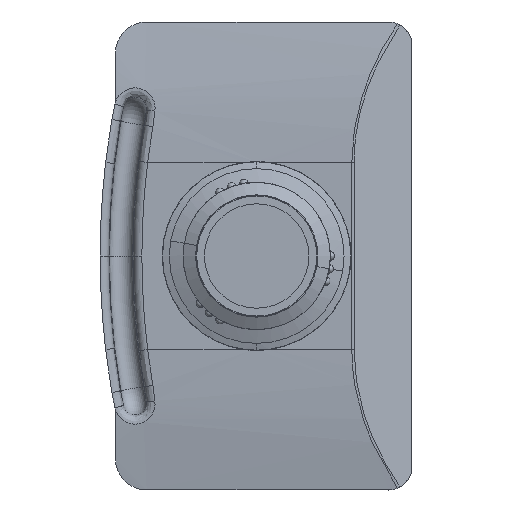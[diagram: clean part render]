
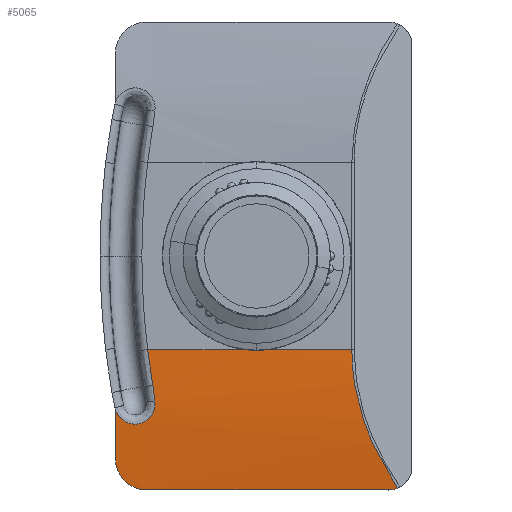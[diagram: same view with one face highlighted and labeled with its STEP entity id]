
A CAD part, left-side view. The second image highlights one B-rep face of the part: STEP entity #5065.
In plain terms, the highlighted cylindrical face has radius 502.5 mm (diameter 1005 mm), a partial arc.
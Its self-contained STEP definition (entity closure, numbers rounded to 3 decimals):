
#2288=CARTESIAN_POINT('',(92.886,-1.423,73.59));
#2289=CARTESIAN_POINT('',(93.728,-1.368,73.692));
#2290=CARTESIAN_POINT('',(94.987,-1.282,73.732));
#2291=CARTESIAN_POINT('',(96.657,-1.162,73.559));
#2292=CARTESIAN_POINT('',(98.324,-1.038,73.225));
#2293=CARTESIAN_POINT('',(100.292,-0.884,
72.533));
#2294=CARTESIAN_POINT('',(102.495,-0.701,
71.244));
#2295=CARTESIAN_POINT('',(104.055,-0.566,
69.868));
#2296=CARTESIAN_POINT('',(105.149,-0.468,
68.576));
#2297=CARTESIAN_POINT('',(105.858,-0.403,
67.548));
#2298=CARTESIAN_POINT('',(106.465,-0.347,
66.458));
#2299=CARTESIAN_POINT('',(106.968,-0.3,
65.302));
#2300=CARTESIAN_POINT('',(107.354,-0.264,
64.106));
#2301=CARTESIAN_POINT('',(107.618,-0.239,
62.89));
#2302=CARTESIAN_POINT('',(107.765,-0.225,
61.65));
#2303=CARTESIAN_POINT('',(107.796,-0.222,
59.963));
#2304=CARTESIAN_POINT('',(107.586,-0.242,
58.322));
#2305=CARTESIAN_POINT('',(107.133,-0.285,
56.702));
#2306=CARTESIAN_POINT('',(106.525,-0.342,
55.141));
#2307=CARTESIAN_POINT('',(105.707,-0.417,
53.697));
#2308=CARTESIAN_POINT('',(104.669,-0.511,
52.361));
#2309=CARTESIAN_POINT('',(103.525,-0.612,
51.15));
#2310=CARTESIAN_POINT('',(102.218,-0.724,
50.108));
#2311=CARTESIAN_POINT('',(100.758,-0.845,
49.251));
#2312=CARTESIAN_POINT('',(99.647,-0.934,
48.73));
#2313=CARTESIAN_POINT('',(98.885,-0.993,
48.45));
#2314=CARTESIAN_POINT('',(98.51,-1.022,48.33));
#2319=CARTESIAN_POINT('',(82.981,-1.974,72.281));
#2320=CARTESIAN_POINT('',(83.803,-1.937,72.419));
#2321=CARTESIAN_POINT('',(85.451,-1.857,72.664));
#2322=CARTESIAN_POINT('',(88.754,-1.681,73.091));
#2323=CARTESIAN_POINT('',(91.233,-1.531,73.391));
#2324=CARTESIAN_POINT('',(92.886,-1.423,73.59));
#2329=CARTESIAN_POINT('',(60.,-2.5,68.938));
#2330=CARTESIAN_POINT('',(67.689,-2.5,69.883));
#2331=CARTESIAN_POINT('',(75.35,-2.324,70.997));
#2332=CARTESIAN_POINT('',(82.981,-1.974,72.281));
#2337=DIRECTION('',(0.,0.,-1.));
#2338=VECTOR('',#2337,61.924);
#2339=CARTESIAN_POINT('',(60.,-2.5,130.862));
#2340=LINE('',#2339,#2338);
#2344=CARTESIAN_POINT('',(60.,-2.5,146.818));
#2345=CARTESIAN_POINT('',(60.353,-2.5,144.158));
#2346=CARTESIAN_POINT('',(60.703,-2.499,138.84));
#2347=CARTESIAN_POINT('',(60.353,-2.5,133.522));
#2348=CARTESIAN_POINT('',(60.,-2.5,130.862));
#2353=DIRECTION('',(0.,0.,-1.));
#2354=VECTOR('',#2353,52.99);
#2355=CARTESIAN_POINT('',(60.,-2.5,199.808));
#2356=LINE('',#2355,#2354);
#2360=CARTESIAN_POINT('',(148.869,5.421,229.045));
#2361=CARTESIAN_POINT('',(134.338,2.81,219.408));
#2362=CARTESIAN_POINT('',(104.796,-1.164,204.739));
#2363=CARTESIAN_POINT('',(75.016,-2.5,199.808));
#2364=CARTESIAN_POINT('',(60.,-2.5,199.808));
#2369=DIRECTION('',(0.,0.,1.));
#2370=VECTOR('',#2369,155.);
#2371=CARTESIAN_POINT('',(150.,5.625,68.33));
#2372=LINE('',#2371,#2370);
#2376=CARTESIAN_POINT('',(130.,2.4,48.33));
#2377=CARTESIAN_POINT('',(130.755,2.506,48.33));
#2378=CARTESIAN_POINT('',(132.256,2.72,48.414));
#2379=CARTESIAN_POINT('',(134.489,3.05,48.797));
#2380=CARTESIAN_POINT('',(136.672,3.382,49.431));
#2381=CARTESIAN_POINT('',(138.74,3.706,50.294));
#2382=CARTESIAN_POINT('',(140.719,4.024,51.394));
#2383=CARTESIAN_POINT('',(142.555,4.327,52.707));
#2384=CARTESIAN_POINT('',(144.215,4.606,54.202));
#2385=CARTESIAN_POINT('',(145.709,4.863,55.883));
#2386=CARTESIAN_POINT('',(147.004,5.089,57.722));
#2387=CARTESIAN_POINT('',(148.072,5.278,59.665));
#2388=CARTESIAN_POINT('',(148.925,5.431,61.736));
#2389=CARTESIAN_POINT('',(149.542,5.542,63.885));
#2390=CARTESIAN_POINT('',(149.915,5.61,66.081));
#2391=CARTESIAN_POINT('',(150.,5.625,67.575));
#2392=CARTESIAN_POINT('',(150.,5.625,68.33));
#2405=CARTESIAN_POINT('',(60.,500.,48.33));
#2406=DIRECTION('',(0.,0.,-1.));
#2407=DIRECTION('',(0.139,-0.99,0.));
#2408=AXIS2_PLACEMENT_3D('',#2405,#2406,#2407);
#2455=CARTESIAN_POINT('',(148.869,5.421,229.045));
#2456=CARTESIAN_POINT('',(149.055,5.454,228.593));
#2457=CARTESIAN_POINT('',(149.383,5.514,227.67));
#2458=CARTESIAN_POINT('',(149.738,5.578,226.246));
#2459=CARTESIAN_POINT('',(149.952,5.616,224.794));
#2460=CARTESIAN_POINT('',(150.,5.625,223.818));
#2461=CARTESIAN_POINT('',(150.,5.625,223.33));
#4098=CARTESIAN_POINT('',(60.,-2.5,130.862));
#4099=VERTEX_POINT('',#4098);
#4196=CARTESIAN_POINT('',(150.,5.625,68.33));
#4197=VERTEX_POINT('',#4196);
#4198=CARTESIAN_POINT('',(150.,5.625,223.33));
#4199=VERTEX_POINT('',#4198);
#4220=CARTESIAN_POINT('',(130.,2.4,48.33));
#4221=CARTESIAN_POINT('',(98.51,-1.022,48.33));
#4222=VERTEX_POINT('',#4220);
#4223=VERTEX_POINT('',#4221);
#4224=VERTEX_POINT('',#2455);
#4225=VERTEX_POINT('',#2364);
#4226=CARTESIAN_POINT('',(60.,-2.5,146.818));
#4227=VERTEX_POINT('',#4226);
#4228=CARTESIAN_POINT('',(60.,-2.5,68.938));
#4229=VERTEX_POINT('',#4228);
#4230=VERTEX_POINT('',#2332);
#4231=VERTEX_POINT('',#2324);
#5039=CARTESIAN_POINT('',(60.,500.,250.));
#5040=DIRECTION('',(0.,0.,-1.));
#5041=DIRECTION('',(-1.,0.,0.));
#5042=AXIS2_PLACEMENT_3D('',#5039,#5040,#5041);
#5043=CYLINDRICAL_SURFACE('',#5042,502.5);
#5045=ORIENTED_EDGE('',*,*,#5044,.T.);
#5047=ORIENTED_EDGE('',*,*,#5046,.F.);
#5049=ORIENTED_EDGE('',*,*,#5048,.F.);
#5051=ORIENTED_EDGE('',*,*,#5050,.F.);
#5052=ORIENTED_EDGE('',*,*,#5029,.F.);
#5053=ORIENTED_EDGE('',*,*,#4454,.F.);
#5054=ORIENTED_EDGE('',*,*,#4484,.F.);
#5056=ORIENTED_EDGE('',*,*,#5055,.F.);
#5058=ORIENTED_EDGE('',*,*,#5057,.T.);
#5060=ORIENTED_EDGE('',*,*,#5059,.F.);
#5062=ORIENTED_EDGE('',*,*,#5061,.F.);
#5063=EDGE_LOOP('',(#5045,#5047,#5049,#5051,#5052,#5053,#5054,#5056,#5058,#5060,
#5062));
#5064=FACE_OUTER_BOUND('',#5063,.F.);
#2315=B_SPLINE_CURVE_WITH_KNOTS('',3,(#2288,#2289,#2290,#2291,#2292,#2293,#2294,
#2295,#2296,#2297,#2298,#2299,#2300,#2301,#2302,#2303,#2304,#2305,#2306,#2307,
#2308,#2309,#2310,#2311,#2312,#2313,#2314),.UNSPECIFIED.,.F.,.F.,(4,1,1,1,1,1,1,
1,1,1,1,1,1,1,1,1,1,1,1,1,1,1,1,1,4),(0.,0.065,0.097,
0.129,0.194,0.259,0.323,
0.356,0.388,0.42,0.452,
0.485,0.517,0.549,0.582,
0.646,0.679,0.711,0.776,
0.808,0.84,0.905,0.937,
0.97,1.),.UNSPECIFIED.);
#2325=B_SPLINE_CURVE_WITH_KNOTS('',3,(#2319,#2320,#2321,#2322,#2323,#2324),
.UNSPECIFIED.,.F.,.F.,(4,1,1,4),(0.,0.25,0.5,1.),.UNSPECIFIED.);
#2333=B_SPLINE_CURVE_WITH_KNOTS('',3,(#2329,#2330,#2331,#2332),.UNSPECIFIED.,
.F.,.F.,(4,4),(0.,1.),.UNSPECIFIED.);
#2349=B_SPLINE_CURVE_WITH_KNOTS('',3,(#2344,#2345,#2346,#2347,#2348),
.UNSPECIFIED.,.F.,.F.,(4,1,4),(0.,0.5,1.),.UNSPECIFIED.);
#2365=B_SPLINE_CURVE_WITH_KNOTS('',3,(#2360,#2361,#2362,#2363,#2364),
.UNSPECIFIED.,.F.,.F.,(4,1,4),(0.,0.496,1.),.UNSPECIFIED.);
#2393=B_SPLINE_CURVE_WITH_KNOTS('',3,(#2376,#2377,#2378,#2379,#2380,#2381,#2382,
#2383,#2384,#2385,#2386,#2387,#2388,#2389,#2390,#2391,#2392),.UNSPECIFIED.,.F.,
.F.,(4,1,1,1,1,1,1,1,1,1,1,1,1,1,4),(0.,0.071,0.143,
0.214,0.286,0.357,0.429,0.5,
0.571,0.643,0.714,0.786,
0.857,0.929,1.),.UNSPECIFIED.);
#2409=CIRCLE('',#2408,502.5);
#2462=B_SPLINE_CURVE_WITH_KNOTS('',3,(#2455,#2456,#2457,#2458,#2459,#2460,
#2461),.UNSPECIFIED.,.F.,.F.,(4,1,1,1,4),(0.,0.25,0.5,0.75,1.),
.UNSPECIFIED.);
#4454=EDGE_CURVE('',#4227,#4099,#2349,.T.);
#4484=EDGE_CURVE('',#4225,#4227,#2356,.T.);
#5029=EDGE_CURVE('',#4099,#4229,#2340,.T.);
#5044=EDGE_CURVE('',#4222,#4223,#2409,.T.);
#5046=EDGE_CURVE('',#4231,#4223,#2315,.T.);
#5048=EDGE_CURVE('',#4230,#4231,#2325,.T.);
#5050=EDGE_CURVE('',#4229,#4230,#2333,.T.);
#5055=EDGE_CURVE('',#4224,#4225,#2365,.T.);
#5057=EDGE_CURVE('',#4224,#4199,#2462,.T.);
#5059=EDGE_CURVE('',#4197,#4199,#2372,.T.);
#5061=EDGE_CURVE('',#4222,#4197,#2393,.T.);
#5065=ADVANCED_FACE('',(#5064),#5043,.T.);
